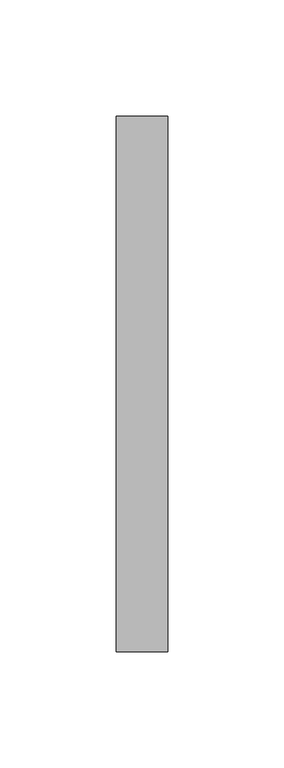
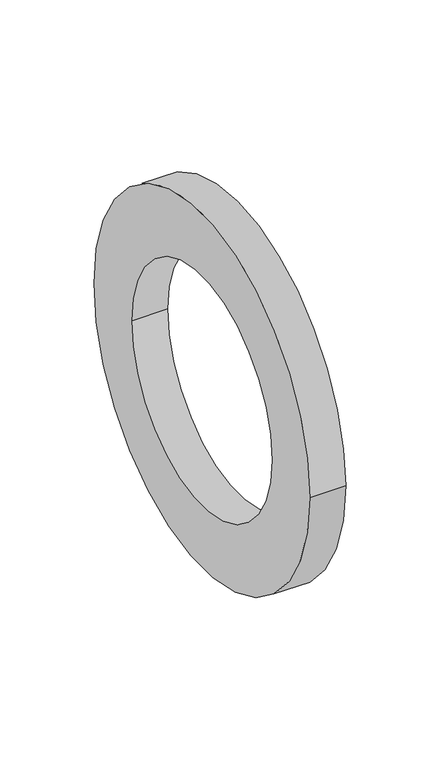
"""IFC4 building model written with IfcOpenShell, lengths in millimetres: pipe fitting geometry, NIRON accesorio brida : Estándar."""

from ifc_helpers import new_model, si_unit, point, frame, origin, origin_2d, place, context, project, spatial, circle_curve, trimmed, segment, composite_curve, outline, extrude, source, transform, mapped, element, save


def pipe_fitting_7d1269df(model_context):
    return source(origin(), model_context, "Body", "SweptSolid", [
        extrude(outline(composite_curve([segment(trimmed(circle_curve(origin_2d(), 115.0), [point((115.0, 0.0))], [point((-115.0, 0.0))], False, "CARTESIAN"), True, "CONTINUOUS"), segment(trimmed(circle_curve(origin_2d(), 115.0), [point((-115.0, 0.0))], [point((115.0, 0.0))], False, "CARTESIAN"), True, "CONTINUOUS")], self_intersect=False), holes=[composite_curve([segment(trimmed(circle_curve(origin_2d(), 74.5), [point((74.5, 0.0))], [point((-74.5, 0.0))], True, "CARTESIAN"), True, "CONTINUOUS"), segment(trimmed(circle_curve(origin_2d(), 74.5), [point((-74.5, 0.0))], [point((74.5, 0.0))], True, "CARTESIAN"), True, "CONTINUOUS")], self_intersect=False)]), frame((2.4830127, 0.0, 0.0), z_axis=(1.0, 0.0, 0.0), x_axis=(0.0, 1.0, 0.0)), (0.0, 0.0, 1.0), 22.0),
    ])


if __name__ == "__main__":
    model = new_model("IFC4")
    model_context = context("Model", 3, world=origin())
    ifc_project = project(units=[si_unit("LENGTHUNIT", "METRE", prefix="MILLI")], contexts=[model_context])
    site = spatial("IfcSite", under=ifc_project)
    building = spatial("IfcBuilding", under=site)
    placement = place(None, origin())
    pipe_fitting_shape = pipe_fitting_7d1269df(model_context)
    element("IfcPipeFitting", 1, ObjectType="NIRON accesorio brida : Estándar", at=placement, inside=building, context=model_context, shape_type="MappedRepresentation", body=[
        mapped(pipe_fitting_shape, transform((0.0, 0.0, 0.0), x_axis=(1.0, 0.0, 0.0), y_axis=(0.0, 1.0, 0.0), z_axis=(0.0, 0.0, 1.0))),
    ])
    save(model, "model.ifc")
